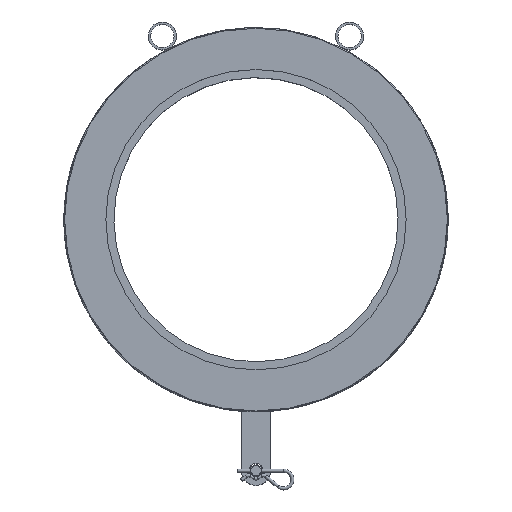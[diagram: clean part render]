
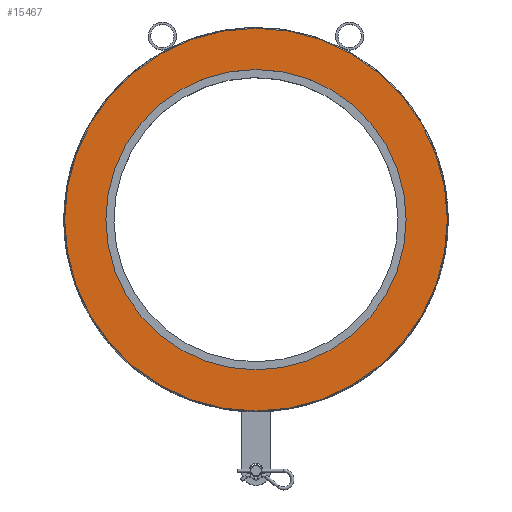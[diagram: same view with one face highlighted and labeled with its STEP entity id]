
A CAD part, top view. The second image highlights one B-rep face of the part: STEP entity #15467.
In plain terms, the highlighted planar face has unit normal (0, 0, 1).
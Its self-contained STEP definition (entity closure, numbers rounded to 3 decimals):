
#505=FACE_BOUND('',#3409,.T.);
#1648=PLANE('',#16323);
#2474=FACE_OUTER_BOUND('',#3408,.T.);
#3408=EDGE_LOOP('',(#14187));
#3409=EDGE_LOOP('',(#14188));
#5978=CIRCLE('',#16319,204.);
#5979=CIRCLE('',#16321,260.);
#7479=VERTEX_POINT('',#36348);
#7480=VERTEX_POINT('',#36352);
#9732=EDGE_CURVE('',#7479,#7479,#5978,.T.);
#9734=EDGE_CURVE('',#7480,#7480,#5979,.T.);
#14187=ORIENTED_EDGE('',*,*,#9734,.F.);
#14188=ORIENTED_EDGE('',*,*,#9732,.T.);
#15467=ADVANCED_FACE('',(#2474,#505),#1648,.T.);
#16319=AXIS2_PLACEMENT_3D('',#36349,#19006,#19007);
#16321=AXIS2_PLACEMENT_3D('',#36353,#19011,#19012);
#16323=AXIS2_PLACEMENT_3D('',#36356,#19016,#19017);
#19006=DIRECTION('center_axis',(0.,0.,
-1.));
#19007=DIRECTION('ref_axis',(-1.,0.,0.));
#19011=DIRECTION('center_axis',(0.,0.,
-1.));
#19012=DIRECTION('ref_axis',(-1.,0.,0.));
#19016=DIRECTION('center_axis',(0.,0.,
1.));
#19017=DIRECTION('ref_axis',(-1.,0.,0.));
#36348=CARTESIAN_POINT('',(204.,0.,132.));
#36349=CARTESIAN_POINT('Origin',(0.,0.,
132.));
#36352=CARTESIAN_POINT('',(260.,0.,132.));
#36353=CARTESIAN_POINT('Origin',(0.,0.,
132.));
#36356=CARTESIAN_POINT('Origin',(0.,0.,
132.));
